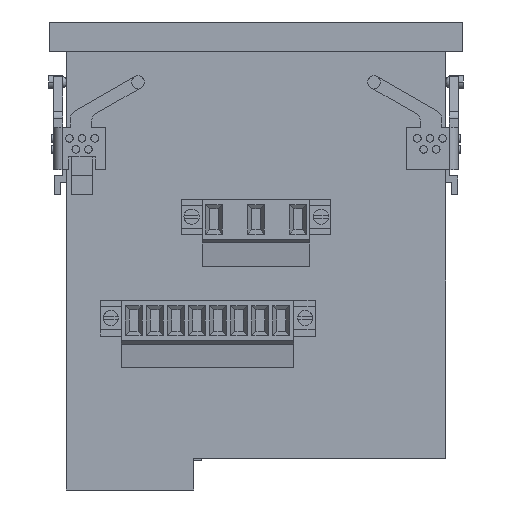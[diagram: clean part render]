
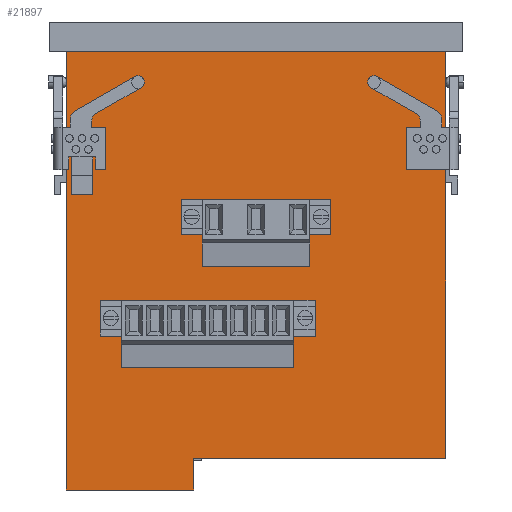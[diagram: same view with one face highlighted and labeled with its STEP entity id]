
A CAD part, front view. The second image highlights one B-rep face of the part: STEP entity #21897.
In plain terms, the highlighted planar face has unit normal (0, -1, 0).
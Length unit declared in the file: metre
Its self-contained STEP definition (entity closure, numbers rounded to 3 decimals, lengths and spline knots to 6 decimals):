
#5005=DIRECTION('',(0.,0.,-1.));
#5006=VECTOR('',#5005,0.0075);
#5007=CARTESIAN_POINT('',(-0.0148,-0.045,-0.1035));
#5008=LINE('',#5007,#5006);
#5013=DIRECTION('',(-1.,0.,0.));
#5014=VECTOR('',#5013,0.0302);
#5015=CARTESIAN_POINT('',(-0.0148,-0.045,-0.111));
#5016=LINE('',#5015,#5014);
#5025=DIRECTION('',(0.,0.,1.));
#5026=VECTOR('',#5025,0.0965);
#5027=CARTESIAN_POINT('',(0.045,-0.045,-0.1035));
#5028=LINE('',#5027,#5026);
#5029=DIRECTION('',(1.,0.,0.));
#5030=VECTOR('',#5029,0.0598);
#5031=CARTESIAN_POINT('',(-0.0148,-0.045,-0.1035));
#5032=LINE('',#5031,#5030);
#5053=DIRECTION('',(-1.,0.,0.));
#5054=VECTOR('',#5053,0.051);
#5055=CARTESIAN_POINT('',(0.014,-0.045,-0.066));
#5056=LINE('',#5055,#5054);
#5069=DIRECTION('',(0.,0.,1.));
#5070=VECTOR('',#5069,0.0085);
#5071=CARTESIAN_POINT('',(0.014,-0.045,-0.0745));
#5072=LINE('',#5071,#5070);
#5081=DIRECTION('',(1.,0.,0.));
#5082=VECTOR('',#5081,0.051);
#5083=CARTESIAN_POINT('',(-0.037,-0.045,-0.0745));
#5084=LINE('',#5083,#5082);
#5101=DIRECTION('',(0.,0.,-1.));
#5102=VECTOR('',#5101,0.0085);
#5103=CARTESIAN_POINT('',(-0.037,-0.045,-0.066));
#5104=LINE('',#5103,#5102);
#6093=DIRECTION('',(-1.,0.,0.));
#6094=VECTOR('',#6093,0.0355);
#6095=CARTESIAN_POINT('',(0.01775,-0.045,-0.042));
#6096=LINE('',#6095,#6094);
#6109=DIRECTION('',(0.,0.,1.));
#6110=VECTOR('',#6109,0.0085);
#6111=CARTESIAN_POINT('',(0.01775,-0.045,-0.0505));
#6112=LINE('',#6111,#6110);
#6125=DIRECTION('',(1.,0.,0.));
#6126=VECTOR('',#6125,0.0355);
#6127=CARTESIAN_POINT('',(-0.01775,-0.045,-0.0505));
#6128=LINE('',#6127,#6126);
#6145=DIRECTION('',(0.,0.,-1.));
#6146=VECTOR('',#6145,0.0085);
#6147=CARTESIAN_POINT('',(-0.01775,-0.045,-0.042));
#6148=LINE('',#6147,#6146);
#8125=DIRECTION('',(1.,0.,0.));
#8126=VECTOR('',#8125,0.09);
#8127=CARTESIAN_POINT('',(-0.045,-0.045,-0.007));
#8128=LINE('',#8127,#8126);
#9197=DIRECTION('',(0.,0.,1.));
#9198=VECTOR('',#9197,0.104);
#9199=CARTESIAN_POINT('',(-0.045,-0.045,-0.111));
#9200=LINE('',#9199,#9198);
#12786=CARTESIAN_POINT('',(0.045,-0.045,-0.1035));
#12787=VERTEX_POINT('',#12786);
#12788=CARTESIAN_POINT('',(-0.0148,-0.045,-0.1035));
#12789=VERTEX_POINT('',#12788);
#12790=CARTESIAN_POINT('',(0.045,-0.045,-0.007));
#12791=VERTEX_POINT('',#12790);
#12792=CARTESIAN_POINT('',(-0.0148,-0.045,-0.111));
#12793=VERTEX_POINT('',#12792);
#12794=CARTESIAN_POINT('',(-0.045,-0.045,-0.111));
#12795=VERTEX_POINT('',#12794);
#12796=CARTESIAN_POINT('',(-0.045,-0.045,-0.007));
#12797=VERTEX_POINT('',#12796);
#12798=CARTESIAN_POINT('',(-0.01775,-0.045,-0.042));
#12799=CARTESIAN_POINT('',(-0.01775,-0.045,-0.0505));
#12800=VERTEX_POINT('',#12798);
#12801=VERTEX_POINT('',#12799);
#12802=CARTESIAN_POINT('',(0.01775,-0.045,-0.0505));
#12803=VERTEX_POINT('',#12802);
#12804=CARTESIAN_POINT('',(0.01775,-0.045,-0.042));
#12805=VERTEX_POINT('',#12804);
#12806=CARTESIAN_POINT('',(-0.037,-0.045,-0.066));
#12807=CARTESIAN_POINT('',(-0.037,-0.045,-0.0745));
#12808=VERTEX_POINT('',#12806);
#12809=VERTEX_POINT('',#12807);
#12810=CARTESIAN_POINT('',(0.014,-0.045,-0.0745));
#12811=VERTEX_POINT('',#12810);
#12812=CARTESIAN_POINT('',(0.014,-0.045,-0.066));
#12813=VERTEX_POINT('',#12812);
#21860=CARTESIAN_POINT('',(0.045,-0.045,-0.007));
#21861=DIRECTION('',(0.,-1.,0.));
#21862=DIRECTION('',(-1.,0.,0.));
#21863=AXIS2_PLACEMENT_3D('',#21860,#21861,#21862);
#21864=PLANE('',#21863);
#21866=ORIENTED_EDGE('',*,*,#21865,.F.);
#21868=ORIENTED_EDGE('',*,*,#21867,.F.);
#21869=ORIENTED_EDGE('',*,*,#21825,.T.);
#21870=ORIENTED_EDGE('',*,*,#21844,.T.);
#21872=ORIENTED_EDGE('',*,*,#21871,.T.);
#21874=ORIENTED_EDGE('',*,*,#21873,.T.);
#21875=EDGE_LOOP('',(#21866,#21868,#21869,#21870,#21872,#21874));
#21876=FACE_OUTER_BOUND('',#21875,.F.);
#21878=ORIENTED_EDGE('',*,*,#21877,.T.);
#21880=ORIENTED_EDGE('',*,*,#21879,.T.);
#21882=ORIENTED_EDGE('',*,*,#21881,.T.);
#21884=ORIENTED_EDGE('',*,*,#21883,.T.);
#21885=EDGE_LOOP('',(#21878,#21880,#21882,#21884));
#21886=FACE_BOUND('',#21885,.F.);
#21888=ORIENTED_EDGE('',*,*,#21887,.T.);
#21890=ORIENTED_EDGE('',*,*,#21889,.T.);
#21892=ORIENTED_EDGE('',*,*,#21891,.T.);
#21894=ORIENTED_EDGE('',*,*,#21893,.T.);
#21895=EDGE_LOOP('',(#21888,#21890,#21892,#21894));
#21896=FACE_BOUND('',#21895,.F.);
#21825=EDGE_CURVE('',#12789,#12793,#5008,.T.);
#21844=EDGE_CURVE('',#12793,#12795,#5016,.T.);
#21865=EDGE_CURVE('',#12787,#12791,#5028,.T.);
#21867=EDGE_CURVE('',#12789,#12787,#5032,.T.);
#21871=EDGE_CURVE('',#12795,#12797,#9200,.T.);
#21873=EDGE_CURVE('',#12797,#12791,#8128,.T.);
#21877=EDGE_CURVE('',#12805,#12800,#6096,.T.);
#21879=EDGE_CURVE('',#12800,#12801,#6148,.T.);
#21881=EDGE_CURVE('',#12801,#12803,#6128,.T.);
#21883=EDGE_CURVE('',#12803,#12805,#6112,.T.);
#21887=EDGE_CURVE('',#12813,#12808,#5056,.T.);
#21889=EDGE_CURVE('',#12808,#12809,#5104,.T.);
#21891=EDGE_CURVE('',#12809,#12811,#5084,.T.);
#21893=EDGE_CURVE('',#12811,#12813,#5072,.T.);
#21897=ADVANCED_FACE('',(#21876,#21886,#21896),#21864,.T.);
